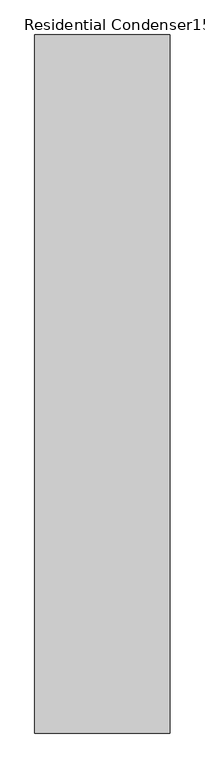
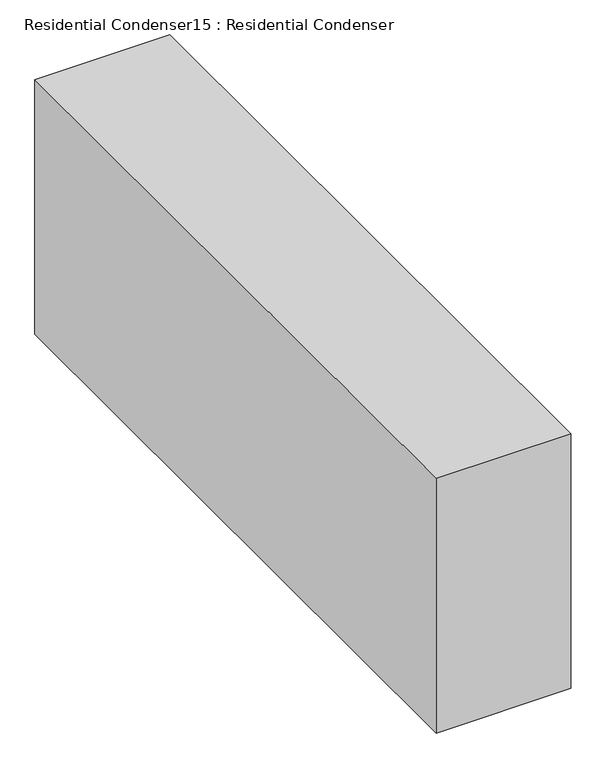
"""IFC4 building model written with IfcOpenShell, lengths in millimetres: proxy geometry, Residential Condenser15 : Residential Condenser."""

import ifcopenshell
import ifcopenshell.guid

model = None  # the IFC model being written
_history = None  # IfcOwnerHistory: only IFC2X3 demands one
_inside = {}  # id of a spatial element -> (the spatial element, [elements in it])
_under = {}  # id of a project, library or spatial element -> (it, [spatial elements below it])
_declared = {}  # id of a project -> (the project, [libraries it declares])
_typed = {}  # id of a type object -> (the type object, [elements of that type])
_made_of = {}  # id of a material, layer set ... -> (it, [elements and type objects made of it])


def new_model(schema):
    """Start an empty IFC model of exactly this schema.

    Asked for "IFC4X3", IfcOpenShell would pick the latest addendum, in which some entities
    have other attributes; the version numbers below select the first issue.
    IFC2X3 requires an IfcOwnerHistory on every rooted entity: one is made here for all.
    """
    global model, _history
    if schema == "IFC4X3":
        model = ifcopenshell.file(schema_version=(4, 3, 0, 0))
    else:
        model = ifcopenshell.file(schema=schema)
    _inside.clear()
    _under.clear()
    _declared.clear()
    _typed.clear()
    _made_of.clear()
    _history = None
    if model.schema == "IFC2X3":
        org = make("IfcOrganization", Name="unknown")
        user = make(
            "IfcPersonAndOrganization",
            ThePerson=make("IfcPerson", FamilyName="unknown"),
            TheOrganization=org,
        )
        app = make(
            "IfcApplication",
            ApplicationDeveloper=org,
            Version="unknown",
            ApplicationFullName="unknown",
            ApplicationIdentifier="unknown",
        )
        _history = make(
            "IfcOwnerHistory",
            OwningUser=user,
            OwningApplication=app,
            ChangeAction="ADDED",
            CreationDate=0,
        )
    return model


def make(cls, **values):
    """One entity of the class cls with the attributes given. An attribute that is None is left unset."""
    return model.create_entity(
        cls, **{name: value for name, value in values.items() if value is not None}
    )


def rooted(cls, **values):
    """An entity with a GlobalId (a new one), such as an element, a storey or a relation."""
    return make(cls, GlobalId=ifcopenshell.guid.new(), OwnerHistory=_history, **values)


def si_unit(unit_type, name, prefix=None):
    """IfcSIUnit, for example si_unit("LENGTHUNIT", "METRE", prefix="MILLI")."""
    return make("IfcSIUnit", UnitType=unit_type, Prefix=prefix, Name=name)


def assignment(units):
    """IfcUnitAssignment: the units of a project."""
    return None if units is None else make("IfcUnitAssignment", Units=units)


def point(xyz):
    """IfcCartesianPoint."""
    return None if xyz is None else make("IfcCartesianPoint", Coordinates=xyz)


def direction(xyz):
    """IfcDirection."""
    return None if xyz is None else make("IfcDirection", DirectionRatios=xyz)


def frame(location, z_axis=None, x_axis=None):
    """IfcAxis2Placement3D, a coordinate frame: its origin and axes. An axis left out is left unset."""
    return make(
        "IfcAxis2Placement3D",
        Location=point(location),
        Axis=direction(z_axis),
        RefDirection=direction(x_axis),
    )


def origin():
    """The frame at (0, 0, 0) with its axes left unset."""
    return frame((0.0, 0.0, 0.0))


def place(relative_to, where):
    """IfcLocalPlacement: puts the frame where relative to a parent placement (None: the world)."""
    return make(
        "IfcLocalPlacement", PlacementRelTo=relative_to, RelativePlacement=where
    )


def context(
    kind, dimensions, precision=None, world=None, true_north=None, identifier=None
):
    """IfcGeometricRepresentationContext, for example the 3D "Model" context."""
    return make(
        "IfcGeometricRepresentationContext",
        ContextIdentifier=identifier,
        ContextType=kind,
        CoordinateSpaceDimension=dimensions,
        Precision=precision,
        WorldCoordinateSystem=world,
        TrueNorth=true_north,
    )


def project(units=None, contexts=None):
    """IfcProject with its units and contexts."""
    return rooted(
        "IfcProject",
        Name="project",
        RepresentationContexts=contexts,
        UnitsInContext=assignment(units),
    )


def spatial(cls, under=None, at=None, **own):
    """A site, building, storey or space (cls), placed at a placement, below another one or the project."""
    s = rooted(cls, ObjectPlacement=at, **own)
    if under is not None:
        _under.setdefault(under.id(), (under, []))[1].append(s)
    return s


def polyline(points):
    """IfcPolyline through the points."""
    return make("IfcPolyline", Points=[point(p) for p in points])


def outline(outer, holes=None, kind="AREA"):
    """IfcArbitraryClosedProfileDef: a profile drawn as a closed curve; with holes, ...WithVoids."""
    if holes is None:
        return make("IfcArbitraryClosedProfileDef", ProfileType=kind, OuterCurve=outer)
    return make(
        "IfcArbitraryProfileDefWithVoids",
        ProfileType=kind,
        OuterCurve=outer,
        InnerCurves=holes,
    )


def extrude(swept, where, along, depth):
    """IfcExtrudedAreaSolid: the profile swept, set in the frame where, extruded along a direction by depth."""
    return make(
        "IfcExtrudedAreaSolid",
        SweptArea=swept,
        Position=where,
        ExtrudedDirection=direction(along),
        Depth=depth,
    )


def shape(context_of_items, identifier, shape_type, items):
    """IfcShapeRepresentation: the items that make up one representation, for example the "Body"."""
    return make(
        "IfcShapeRepresentation",
        ContextOfItems=context_of_items,
        RepresentationIdentifier=identifier,
        RepresentationType=shape_type,
        Items=items,
    )


def source(mapping_origin, context_of_items, identifier, shape_type, items):
    """IfcRepresentationMap: a shape defined once, which mapped items show again and again."""
    return make(
        "IfcRepresentationMap",
        MappingOrigin=mapping_origin,
        MappedRepresentation=shape(context_of_items, identifier, shape_type, items),
    )


def transform(
    local_origin,
    x_axis=None,
    y_axis=None,
    z_axis=None,
    scale=None,
    scale2=None,
    scale3=None,
    uniform=True,
):
    """IfcCartesianTransformationOperator3D, or its non-uniform kind. x_axis, y_axis, z_axis: its Axis1, 2, 3."""
    if uniform:
        return make(
            "IfcCartesianTransformationOperator3D",
            Axis1=direction(x_axis),
            Axis2=direction(y_axis),
            LocalOrigin=point(local_origin),
            Scale=scale,
            Axis3=direction(z_axis),
        )
    return make(
        "IfcCartesianTransformationOperator3DnonUniform",
        Axis1=direction(x_axis),
        Axis2=direction(y_axis),
        LocalOrigin=point(local_origin),
        Scale=scale,
        Axis3=direction(z_axis),
        Scale2=scale2,
        Scale3=scale3,
    )


def mapped(mapping_source, mapping_target):
    """IfcMappedItem: shows the shape of a source again, moved by a transform."""
    return make(
        "IfcMappedItem", MappingSource=mapping_source, MappingTarget=mapping_target
    )


def made_of(thing, what):
    """Note that an element or type object is made of a material, layer set ...; save() writes the relation."""
    if what is not None:
        _made_of.setdefault(what.id(), (what, []))[1].append(thing)
    return thing


def element(
    cls,
    number,
    at=None,
    inside=None,
    cuts=None,
    type_object=None,
    material=None,
    context=None,
    identifier="Body",
    shape_type=None,
    held_by="IfcProductDefinitionShape",
    body=None,
    shapes=None,
    **own,
):
    """One element of the class cls, such as IfcWall. Its Tag is "e" and its number.

    at: its placement. inside: the storey or other place that contains it. cuts: it is an
    opening in that element (IfcRelVoidsElement). A single representation is given by context,
    identifier, shape_type and body (its items); several are given by shapes. held_by: the class
    of the entity that holds the representations. save() writes the other relations.
    """
    e = rooted(cls, Tag="e%d" % number, ObjectPlacement=at, **own)
    if body is not None:
        shapes = [shape(context, identifier, shape_type, body)]
    if shapes is not None:
        e.Representation = make(held_by, Representations=shapes)
    if inside is not None:
        _inside.setdefault(inside.id(), (inside, []))[1].append(e)
    if cuts is not None:
        rooted(
            "IfcRelVoidsElement", RelatingBuildingElement=cuts, RelatedOpeningElement=e
        )
    if type_object is not None:
        _typed.setdefault(type_object.id(), (type_object, []))[1].append(e)
    return made_of(e, material)


def aggregate(whole, parts):
    """IfcRelAggregates: a whole, such as a stair, and the parts it consists of."""
    return rooted("IfcRelAggregates", RelatingObject=whole, RelatedObjects=parts)


def save(model, path):
    """Write the relations noted so far, then the file.

    IfcRelAggregates (storeys below a building ...), IfcRelContainedInSpatialStructure (elements
    in a storey), IfcRelDefinesByType, IfcRelAssociatesMaterial and IfcRelDeclares: one each for
    every whole, place, type object, material and project.
    """
    for whole, parts in _under.values():
        aggregate(whole, parts)
    for where, things in _inside.values():
        rooted(
            "IfcRelContainedInSpatialStructure",
            RelatedElements=things,
            RelatingStructure=where,
        )
    for kind, things in _typed.values():
        rooted("IfcRelDefinesByType", RelatedObjects=things, RelatingType=kind)
    for what, things in _made_of.values():
        rooted("IfcRelAssociatesMaterial", RelatedObjects=things, RelatingMaterial=what)
    for by, libraries in _declared.values():
        rooted("IfcRelDeclares", RelatingContext=by, RelatedDefinitions=libraries)
    model.write(path)


def residential_condenser15_residential_condenser_64aeae7e(model_context):
    return source(origin(), model_context, "Body", "SweptSolid", [
        extrude(outline(polyline([(13753.9954006, 18535.0), (13753.9954006, 15956.2357347), (13253.9954006, 15956.2357347), (13253.9954006, 18535.0), (13753.9954006, 18535.0)])), frame((0.0, 0.0, 57800.0), z_axis=(0.0, 0.0, 1.0), x_axis=(1.0, 0.0, 0.0)), (0.0, 0.0, 1.0), 1000.0),
    ])


if __name__ == "__main__":
    model = new_model("IFC4")
    model_context = context("Model", 3, world=origin())
    ifc_project = project(units=[si_unit("LENGTHUNIT", "METRE", prefix="MILLI")], contexts=[model_context])
    site = spatial("IfcSite", under=ifc_project)
    building = spatial("IfcBuilding", under=site)
    placement = place(None, origin())
    residential_condenser15_residential_condenser_shape = residential_condenser15_residential_condenser_64aeae7e(model_context)
    element("IfcBuildingElementProxy", 1, Name="Residential Condenser15 : Residential Condenser", ObjectType="Residential Condenser15 : Residential Condenser", at=placement, inside=building, context=model_context, shape_type="MappedRepresentation", body=[
        mapped(residential_condenser15_residential_condenser_shape, transform((0.0, 0.0, 0.0), x_axis=(1.0, 0.0, 0.0), y_axis=(0.0, 1.0, 0.0), z_axis=(0.0, 0.0, 1.0))),
    ])
    save(model, "model.ifc")
